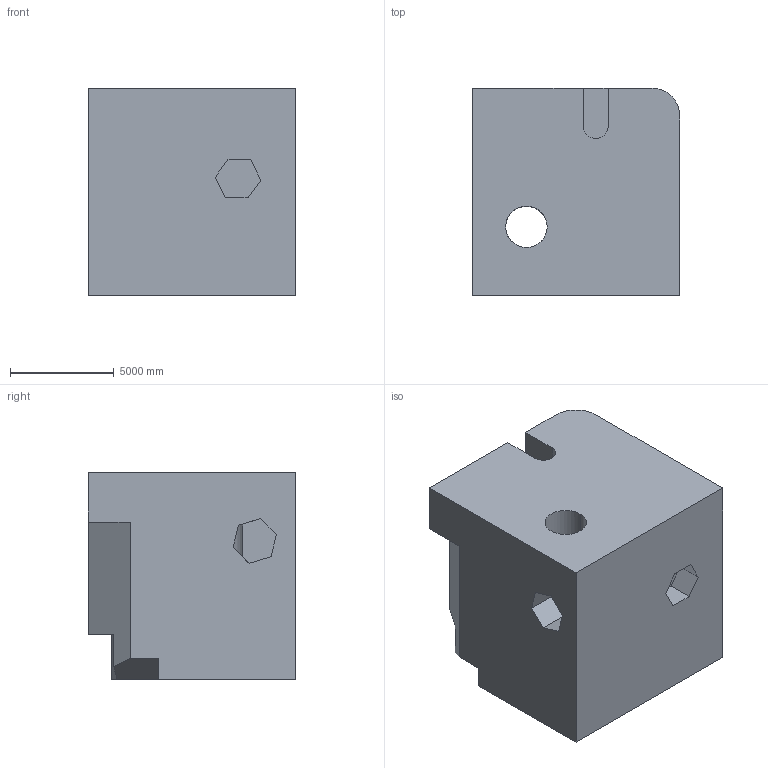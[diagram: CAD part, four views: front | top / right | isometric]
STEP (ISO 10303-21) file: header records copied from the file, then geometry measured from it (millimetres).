
FILE_DESCRIPTION (( 'STEP AP203' ), '1' );
FILE_NAME ('999.STEP', '2022-07-29T15:06:23', ( 'user' ), ( '' ), 'SwSTEP 2.0', 'SolidWorks 2021', '' );
FILE_SCHEMA (( 'CONFIG_CONTROL_DESIGN' ));
Length unit declared in the file: centimetre
Products named in the file (1): 999
Bounding box: 10000 x 10000 x 10000 mm (x, y, z)
Volume: 886626493809.6 mm3; surface area: 705482209.8 mm2
Topology: 1 solids, 1 shells, 45 faces, 123 edges, 82 vertices
Faces by surface type: plane 37, cylinder 8
Entity records: 1503 total; most frequent: CARTESIAN_POINT 260, ORIENTED_EDGE 246, DIRECTION 233, EDGE_CURVE 123, LINE 99, VECTOR 99, VERTEX_POINT 82, AXIS2_PLACEMENT_3D 67
